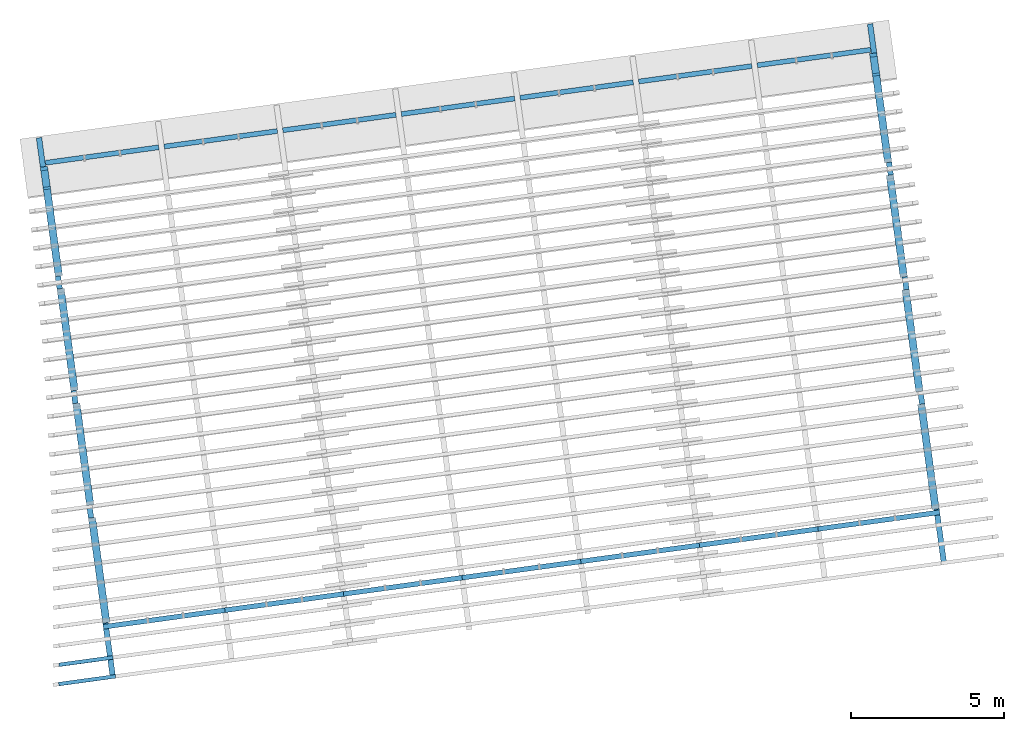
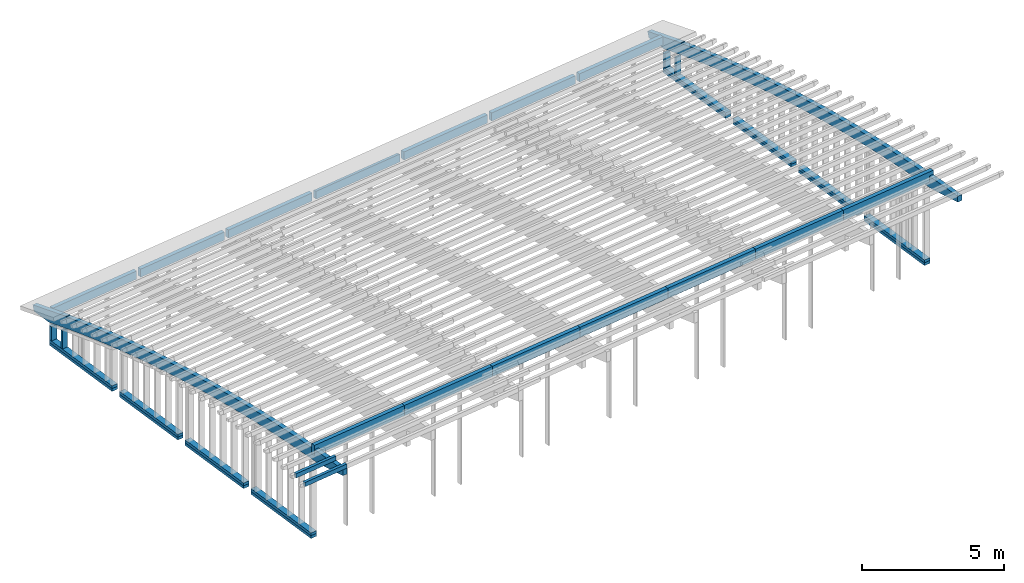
# One storey, part 2 of 18: 30 beams, 4 columns, 2 building element parts, 2 slabs, 2 elements without a shape of their own.
"""IFC2X3 building model written with IfcOpenShell, lengths in metres."""

import ifcopenshell
import ifcopenshell.guid

model = None  # the IFC model being written
_history = None  # IfcOwnerHistory: only IFC2X3 demands one
_inside = {}  # id of a spatial element -> (the spatial element, [elements in it])
_under = {}  # id of a project, library or spatial element -> (it, [spatial elements below it])
_declared = {}  # id of a project -> (the project, [libraries it declares])
_typed = {}  # id of a type object -> (the type object, [elements of that type])
_made_of = {}  # id of a material, layer set ... -> (it, [elements and type objects made of it])


def new_model(schema):
    """Start an empty IFC model of exactly this schema.

    Asked for "IFC4X3", IfcOpenShell would pick the latest addendum, in which some entities
    have other attributes; the version numbers below select the first issue.
    IFC2X3 requires an IfcOwnerHistory on every rooted entity: one is made here for all.
    """
    global model, _history
    if schema == "IFC4X3":
        model = ifcopenshell.file(schema_version=(4, 3, 0, 0))
    else:
        model = ifcopenshell.file(schema=schema)
    _inside.clear()
    _under.clear()
    _declared.clear()
    _typed.clear()
    _made_of.clear()
    _history = None
    if model.schema == "IFC2X3":
        org = make("IfcOrganization", Name="unknown")
        user = make(
            "IfcPersonAndOrganization",
            ThePerson=make("IfcPerson", FamilyName="unknown"),
            TheOrganization=org,
        )
        app = make(
            "IfcApplication",
            ApplicationDeveloper=org,
            Version="unknown",
            ApplicationFullName="unknown",
            ApplicationIdentifier="unknown",
        )
        _history = make(
            "IfcOwnerHistory",
            OwningUser=user,
            OwningApplication=app,
            ChangeAction="ADDED",
            CreationDate=0,
        )
    return model


def make(cls, **values):
    """One entity of the class cls with the attributes given. An attribute that is None is left unset."""
    return model.create_entity(
        cls, **{name: value for name, value in values.items() if value is not None}
    )


def entity(cls, *values):
    """Any entity or typed value of the class cls, its attributes in the order of the schema. None: left unset."""
    e = model.create_entity(cls)
    for i, value in enumerate(values):
        if value is not None:
            e[i] = value
    return e


def rooted(cls, **values):
    """An entity with a GlobalId (a new one), such as an element, a storey or a relation."""
    return make(cls, GlobalId=ifcopenshell.guid.new(), OwnerHistory=_history, **values)


def si_unit(unit_type, name, prefix=None):
    """IfcSIUnit, for example si_unit("LENGTHUNIT", "METRE", prefix="MILLI")."""
    return make("IfcSIUnit", UnitType=unit_type, Prefix=prefix, Name=name)


def converted_unit(unit_type, name, factor, base, dimensions=None, offset=None):
    """IfcConversionBasedUnit, such as the inch: factor (a typed value) times the base unit."""
    return make(
        "IfcConversionBasedUnit"
        if offset is None
        else "IfcConversionBasedUnitWithOffset",
        ConversionOffset=offset,
        Dimensions=None
        if dimensions is None
        else entity("IfcDimensionalExponents", *dimensions),
        UnitType=unit_type,
        Name=name,
        ConversionFactor=make(
            "IfcMeasureWithUnit", ValueComponent=factor, UnitComponent=base
        ),
    )


def derived_unit(unit_type, elements):
    """IfcDerivedUnit: a product of units, each with its exponent."""
    return make(
        "IfcDerivedUnit",
        Elements=[
            make("IfcDerivedUnitElement", Unit=unit, Exponent=power)
            for unit, power in elements
        ],
        UnitType=unit_type,
    )


def money_unit(currency):
    """IfcMonetaryUnit."""
    return make("IfcMonetaryUnit", Currency=currency)


def assignment(units):
    """IfcUnitAssignment: the units of a project."""
    return None if units is None else make("IfcUnitAssignment", Units=units)


def point(xyz):
    """IfcCartesianPoint."""
    return None if xyz is None else make("IfcCartesianPoint", Coordinates=xyz)


def direction(xyz):
    """IfcDirection."""
    return None if xyz is None else make("IfcDirection", DirectionRatios=xyz)


def frame(location, z_axis=None, x_axis=None):
    """IfcAxis2Placement3D, a coordinate frame: its origin and axes. An axis left out is left unset."""
    return make(
        "IfcAxis2Placement3D",
        Location=point(location),
        Axis=direction(z_axis),
        RefDirection=direction(x_axis),
    )


def frame_2d(location, x_axis=None):
    """IfcAxis2Placement2D, a coordinate frame in the plane: its origin and x axis."""
    return make(
        "IfcAxis2Placement2D", Location=point(location), RefDirection=direction(x_axis)
    )


def origin_with_axes():
    """The frame at (0, 0, 0) with the z axis (0, 0, 1) and the x axis (1, 0, 0) written out."""
    return frame((0.0, 0.0, 0.0), z_axis=(0.0, 0.0, 1.0), x_axis=(1.0, 0.0, 0.0))


def origin_2d_with_axis():
    """The frame at (0, 0) in the plane with the x axis (1, 0) written out."""
    return frame_2d((0.0, 0.0), x_axis=(1.0, 0.0))


def place(relative_to, where):
    """IfcLocalPlacement: puts the frame where relative to a parent placement (None: the world)."""
    return make(
        "IfcLocalPlacement", PlacementRelTo=relative_to, RelativePlacement=where
    )


def context(
    kind, dimensions, precision=None, world=None, true_north=None, identifier=None
):
    """IfcGeometricRepresentationContext, for example the 3D "Model" context."""
    return make(
        "IfcGeometricRepresentationContext",
        ContextIdentifier=identifier,
        ContextType=kind,
        CoordinateSpaceDimension=dimensions,
        Precision=precision,
        WorldCoordinateSystem=world,
        TrueNorth=true_north,
    )


def subcontext(parent, identifier, kind, view, scale=None):
    """IfcGeometricRepresentationSubContext, for example "Body" below "Model"."""
    return make(
        "IfcGeometricRepresentationSubContext",
        ContextIdentifier=identifier,
        ContextType=kind,
        ParentContext=parent,
        TargetScale=scale,
        TargetView=view,
    )


def project(units=None, contexts=None):
    """IfcProject with its units and contexts."""
    return rooted(
        "IfcProject",
        Name="project",
        RepresentationContexts=contexts,
        UnitsInContext=assignment(units),
    )


def spatial(cls, under=None, at=None, **own):
    """A site, building, storey or space (cls), placed at a placement, below another one or the project."""
    s = rooted(cls, ObjectPlacement=at, **own)
    if under is not None:
        _under.setdefault(under.id(), (under, []))[1].append(s)
    return s


def profile(cls, at=None, kind="AREA", **sizes):
    """A parametric profile (cls). Its sizes go by their IFC names, for example OverallWidth=200.0."""
    return make(cls, ProfileType=kind, Position=at, **sizes)


def rectangle(**sizes):
    """IfcRectangleProfileDef."""
    return profile("IfcRectangleProfileDef", **sizes)


def extrude(swept, where, along, depth):
    """IfcExtrudedAreaSolid: the profile swept, set in the frame where, extruded along a direction by depth."""
    return make(
        "IfcExtrudedAreaSolid",
        SweptArea=swept,
        Position=where,
        ExtrudedDirection=direction(along),
        Depth=depth,
    )


def boolean(op, a, b):
    """IfcBooleanResult of two solids."""
    return make("IfcBooleanResult", Operator=op, FirstOperand=a, SecondOperand=b)


def faces_of(points, faces, orient=None, outer=None):
    """IfcFace entities. A face is a list of loops; a loop is a list of indices into points, from 0.

    orient and outer hold one flag for each loop. By default every Orientation is true, the
    first loop of a face is its IfcFaceOuterBound and the others are IfcFaceBound.
    """
    made = []
    for i, loops in enumerate(faces):
        bounds = []
        for j, loop in enumerate(loops):
            is_outer = j == 0 if outer is None else outer[i][j]
            bounds.append(
                make(
                    "IfcFaceOuterBound" if is_outer else "IfcFaceBound",
                    Bound=make("IfcPolyLoop", Polygon=[points[k] for k in loop]),
                    Orientation=True if orient is None else orient[i][j],
                )
            )
        made.append(make("IfcFace", Bounds=bounds))
    return made


def faceted_brep(points, faces, orient=None, outer=None, voids=None):
    """IfcFacetedBrep: a solid bounded by flat faces; with voids (closed shells), ...WithVoids."""
    shared = [point(p) for p in points]
    hull = make("IfcClosedShell", CfsFaces=faces_of(shared, faces, orient, outer))
    if voids is None:
        return make("IfcFacetedBrep", Outer=hull)
    return make(
        "IfcFacetedBrepWithVoids",
        Outer=hull,
        Voids=[
            make(cls, CfsFaces=faces_of(shared, fs, o, b)) for cls, fs, o, b in voids
        ],
    )


def shape(context_of_items, identifier, shape_type, items):
    """IfcShapeRepresentation: the items that make up one representation, for example the "Body"."""
    return make(
        "IfcShapeRepresentation",
        ContextOfItems=context_of_items,
        RepresentationIdentifier=identifier,
        RepresentationType=shape_type,
        Items=items,
    )


def source(mapping_origin, context_of_items, identifier, shape_type, items):
    """IfcRepresentationMap: a shape defined once, which mapped items show again and again."""
    return make(
        "IfcRepresentationMap",
        MappingOrigin=mapping_origin,
        MappedRepresentation=shape(context_of_items, identifier, shape_type, items),
    )


def transform(
    local_origin,
    x_axis=None,
    y_axis=None,
    z_axis=None,
    scale=None,
    scale2=None,
    scale3=None,
    uniform=True,
):
    """IfcCartesianTransformationOperator3D, or its non-uniform kind. x_axis, y_axis, z_axis: its Axis1, 2, 3."""
    if uniform:
        return make(
            "IfcCartesianTransformationOperator3D",
            Axis1=direction(x_axis),
            Axis2=direction(y_axis),
            LocalOrigin=point(local_origin),
            Scale=scale,
            Axis3=direction(z_axis),
        )
    return make(
        "IfcCartesianTransformationOperator3DnonUniform",
        Axis1=direction(x_axis),
        Axis2=direction(y_axis),
        LocalOrigin=point(local_origin),
        Scale=scale,
        Axis3=direction(z_axis),
        Scale2=scale2,
        Scale3=scale3,
    )


def mapped(mapping_source, mapping_target):
    """IfcMappedItem: shows the shape of a source again, moved by a transform."""
    return make(
        "IfcMappedItem", MappingSource=mapping_source, MappingTarget=mapping_target
    )


def material(Name=None, Category=None):
    """IfcMaterial."""
    return make("IfcMaterial", Name=Name, Category=Category)


def made_of(thing, what):
    """Note that an element or type object is made of a material, layer set ...; save() writes the relation."""
    if what is not None:
        _made_of.setdefault(what.id(), (what, []))[1].append(thing)
    return thing


def type_object(cls, material=None, **own):
    """A type object (cls), such as IfcWallType, which elements share."""
    return made_of(rooted(cls, **own), material)


def element(
    cls,
    number,
    at=None,
    inside=None,
    cuts=None,
    type_object=None,
    material=None,
    context=None,
    identifier="Body",
    shape_type=None,
    held_by="IfcProductDefinitionShape",
    body=None,
    shapes=None,
    **own,
):
    """One element of the class cls, such as IfcWall. Its Tag is "e" and its number.

    at: its placement. inside: the storey or other place that contains it. cuts: it is an
    opening in that element (IfcRelVoidsElement). A single representation is given by context,
    identifier, shape_type and body (its items); several are given by shapes. held_by: the class
    of the entity that holds the representations. save() writes the other relations.
    """
    e = rooted(cls, Tag="e%d" % number, ObjectPlacement=at, **own)
    if body is not None:
        shapes = [shape(context, identifier, shape_type, body)]
    if shapes is not None:
        e.Representation = make(held_by, Representations=shapes)
    if inside is not None:
        _inside.setdefault(inside.id(), (inside, []))[1].append(e)
    if cuts is not None:
        rooted(
            "IfcRelVoidsElement", RelatingBuildingElement=cuts, RelatedOpeningElement=e
        )
    if type_object is not None:
        _typed.setdefault(type_object.id(), (type_object, []))[1].append(e)
    return made_of(e, material)


def aggregate(whole, parts):
    """IfcRelAggregates: a whole, such as a stair, and the parts it consists of."""
    return rooted("IfcRelAggregates", RelatingObject=whole, RelatedObjects=parts)


def save(model, path):
    """Write the relations noted so far, then the file.

    IfcRelAggregates (storeys below a building ...), IfcRelContainedInSpatialStructure (elements
    in a storey), IfcRelDefinesByType, IfcRelAssociatesMaterial and IfcRelDeclares: one each for
    every whole, place, type object, material and project.
    """
    for whole, parts in _under.values():
        aggregate(whole, parts)
    for where, things in _inside.values():
        rooted(
            "IfcRelContainedInSpatialStructure",
            RelatedElements=things,
            RelatingStructure=where,
        )
    for kind, things in _typed.values():
        rooted("IfcRelDefinesByType", RelatedObjects=things, RelatingType=kind)
    for what, things in _made_of.values():
        rooted("IfcRelAssociatesMaterial", RelatedObjects=things, RelatingMaterial=what)
    for by, libraries in _declared.values():
        rooted("IfcRelDeclares", RelatingContext=by, RelatedDefinitions=libraries)
    model.write(path)


model = new_model("IFC2X3")

# Units and contexts
model_context = context("Model", 3, precision=1e-05, world=origin_with_axes(), true_north=direction((0.0, 1.0)))
body_context = subcontext(model_context, "Body", "Model", "MODEL_VIEW")
ifc_project = project(units=[si_unit("LENGTHUNIT", "METRE"), si_unit("AREAUNIT", "SQUARE_METRE"), si_unit("VOLUMEUNIT", "CUBIC_METRE"), converted_unit("PLANEANGLEUNIT", "DEGREE", entity("IfcPlaneAngleMeasure", 0.0174532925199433), si_unit("PLANEANGLEUNIT", "RADIAN"), dimensions=[0, 0, 0, 0, 0, 0, 0]), money_unit("EUR"), converted_unit("TIMEUNIT", "Year", entity("IfcTimeMeasure", 31557600.0), si_unit("TIMEUNIT", "SECOND"), dimensions=[0, 0, 1, 0, 0, 0, 0]), si_unit("MASSUNIT", "GRAM", prefix="KILO"), si_unit("THERMODYNAMICTEMPERATUREUNIT", "DEGREE_CELSIUS"), si_unit("LUMINOUSINTENSITYUNIT", "LUMEN"), si_unit("ENERGYUNIT", "JOULE", prefix="MEGA"), derived_unit("THERMALCONDUCTANCEUNIT", [(si_unit("POWERUNIT", "WATT"), 1), (si_unit("LENGTHUNIT", "METRE"), -1), (si_unit("THERMODYNAMICTEMPERATUREUNIT", "KELVIN"), -1)]), derived_unit("SPECIFICHEATCAPACITYUNIT", [(si_unit("ENERGYUNIT", "JOULE"), 1), (si_unit("MASSUNIT", "GRAM", prefix="KILO"), -1), (si_unit("THERMODYNAMICTEMPERATUREUNIT", "KELVIN"), -1)]), derived_unit("MASSDENSITYUNIT", [(si_unit("MASSUNIT", "GRAM", prefix="KILO"), 1), (si_unit("VOLUMEUNIT", "CUBIC_METRE"), -1)])], contexts=[model_context])

# Site, building, storey
site_placement = place(None, origin_with_axes())
site = spatial("IfcSite", under=ifc_project, at=site_placement, Name="Gelände", CompositionType="ELEMENT")
building_placement = place(site_placement, origin_with_axes())
building = spatial("IfcBuilding", under=site, at=building_placement, Name="Gebäude", CompositionType="ELEMENT")
storey_placement = place(building_placement, frame((0.0, 0.0, 5.5), z_axis=(0.0, 0.0, 1.0), x_axis=(1.0, 0.0, 0.0)))
storey = spatial("IfcBuildingStorey", under=building, at=storey_placement, Name="OG", CompositionType="ELEMENT", Elevation=5.5)

# Columns
ifc_material_1 = material(Name="Bauholz")
column_type_1 = type_object("IfcColumnType", Name="Bauholz 80 x 240", PredefinedType="NOTDEFINED")
column_1_placement = place(storey_placement, frame((111.7343135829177, -132.936723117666, 1.071999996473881), z_axis=(0.0, 0.0, 1.0), x_axis=(-0.1357111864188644, 0.9907484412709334, 0.0)))
element("IfcColumn", 1, at=column_1_placement, inside=storey, type_object=column_type_1, material=ifc_material_1, Name="Stütze-018", context=body_context, shape_type="SweptSolid", body=[
    extrude(rectangle(XDim=0.08, YDim=0.24, at=origin_2d_with_axis()), origin_with_axes(), (0.0, 0.0, 1.0), 0.7973514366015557),
])
column_2_placement = place(storey_placement, frame((84.62347323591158, -136.6503240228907, 1.071999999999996), z_axis=(0.0, 0.0, 1.0), x_axis=(-0.1357111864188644, 0.9907484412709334, 0.0)))
element("IfcColumn", 2, at=column_2_placement, inside=storey, type_object=column_type_1, material=ifc_material_1, Name="Stütze-018", context=body_context, shape_type="SweptSolid", body=[
    extrude(rectangle(XDim=0.08, YDim=0.24, at=origin_2d_with_axis()), origin_with_axes(), (0.0, 0.0, 1.0), 0.7973514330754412),
])
column_type_2 = type_object("IfcColumnType", Name="Bauholz 120 x 240", PredefinedType="NOTDEFINED")
column_3_placement = place(storey_placement, frame((111.646779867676, -132.2976903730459, 1.071999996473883), z_axis=(0.0, 0.0, 1.0), x_axis=(-0.1357111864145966, 0.9907484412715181, 0.0)))
element("IfcColumn", 3, at=column_3_placement, inside=storey, type_object=column_type_2, material=ifc_material_1, Name="Stütze-018", context=body_context, shape_type="SweptSolid", body=[
    extrude(rectangle(XDim=0.12, YDim=0.24, at=origin_2d_with_axis()), origin_with_axes(), (0.0, 0.0, 1.0), 0.6168987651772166),
])
column_4_placement = place(storey_placement, frame((84.53593952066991, -136.0112912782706, 1.071999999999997), z_axis=(0.0, 0.0, 1.0), x_axis=(-0.1357111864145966, 0.9907484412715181, 0.0)))
element("IfcColumn", 4, at=column_4_placement, inside=storey, type_object=column_type_2, material=ifc_material_1, Name="Stütze-018", context=body_context, shape_type="SweptSolid", body=[
    extrude(rectangle(XDim=0.12, YDim=0.24, at=origin_2d_with_axis()), origin_with_axes(), (0.0, 0.0, 1.0), 0.6168987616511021),
])

# Beams
ifc_material_2 = material(Name="Holz, Bauholz")
beam_type_1 = type_object("IfcBeamType", Name="Holz, Bauholz 240 x 120", PredefinedType="NOTDEFINED")
beam_1_placement = place(storey_placement, frame((112.6977272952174, -139.9700463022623, 1.071999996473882), z_axis=(0.0, 0.0, 1.0), x_axis=(-0.9907484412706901, -0.1357111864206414, 0.0)))
element("IfcBeam", 5, at=beam_1_placement, inside=storey, type_object=beam_type_1, material=ifc_material_2, Name="Unterzug-021", context=body_context, shape_type="SweptSolid", body=[
    extrude(rectangle(XDim=0.12, YDim=0.24, at=frame_2d((-0.06, 0.0), x_axis=(1.0, 0.0))), frame((0.0, 0.0, 0.0), z_axis=(0.0, 1.0, 0.0), x_axis=(0.0, 0.0, 1.0)), (0.0, 0.0, 1.0), 3.35999999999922),
])
beam_2_placement = place(storey_placement, frame((85.0168999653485, -139.5225037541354, 1.071999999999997), z_axis=(0.0, 0.0, 1.0), x_axis=(0.9907484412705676, 0.1357111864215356, 0.0)))
element("IfcBeam", 6, at=beam_2_placement, inside=storey, type_object=beam_type_1, material=ifc_material_2, Name="Unterzug-021", context=body_context, shape_type="SweptSolid", body=[
    extrude(rectangle(XDim=0.12, YDim=0.24, at=frame_2d((-0.06, 0.0), x_axis=(1.0, 0.0))), frame((0.0, 0.0, 0.0), z_axis=(0.0, 1.0, 0.0), x_axis=(0.0, 0.0, 1.0)), (0.0, 0.0, 1.0), 3.604000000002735),
])
beam_3_placement = place(storey_placement, frame((85.07389866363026, -139.9386180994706, 1.071999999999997), z_axis=(0.0, 0.0, 1.0), x_axis=(-0.9907484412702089, -0.1357111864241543, 0.0)))
element("IfcBeam", 7, at=beam_3_placement, inside=storey, type_object=beam_type_1, material=ifc_material_2, Name="Unterzug-021", context=body_context, shape_type="SweptSolid", body=[
    extrude(rectangle(XDim=0.12, YDim=0.24, at=frame_2d((-0.06, 0.0), x_axis=(1.0, 0.0))), frame((0.0, 0.0, 0.0), z_axis=(0.0, 1.0, 0.0), x_axis=(0.0, 0.0, 1.0)), (0.0, 0.0, 1.0), 3.359999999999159),
])
beam_4_placement = place(storey_placement, frame((85.5868869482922, -143.6836472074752, 1.071999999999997), z_axis=(0.0, 0.0, 1.0), x_axis=(-0.9907484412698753, -0.1357111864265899, 0.0)))
element("IfcBeam", 8, at=beam_4_placement, inside=storey, type_object=beam_type_1, material=ifc_material_2, Name="Unterzug-021", context=body_context, shape_type="SweptSolid", body=[
    extrude(rectangle(XDim=0.12, YDim=0.24, at=frame_2d((-0.06, 0.0), x_axis=(1.0, 0.0))), frame((0.0, 0.0, 0.0), z_axis=(0.0, 1.0, 0.0), x_axis=(0.0, 0.0, 1.0)), (0.0, 0.0, 1.0), 3.359999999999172),
])
beam_5_placement = place(storey_placement, frame((86.09987523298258, -147.4286763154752, 1.071999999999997), z_axis=(0.0, 0.0, 1.0), x_axis=(-0.990748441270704, -0.135711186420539, 0.0)))
element("IfcBeam", 9, at=beam_5_placement, inside=storey, type_object=beam_type_1, material=ifc_material_2, Name="Unterzug-021", context=body_context, shape_type="SweptSolid", body=[
    extrude(rectangle(XDim=0.12, YDim=0.24, at=frame_2d((-0.06, 0.0), x_axis=(1.0, 0.0))), frame((0.0, 0.0, 0.0), z_axis=(0.0, 1.0, 0.0), x_axis=(0.0, 0.0, 1.0)), (0.0, 0.0, 1.0), 3.45999994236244),
])
beam_6_placement = place(storey_placement, frame((112.1277403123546, -135.8089028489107, 1.071999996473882), z_axis=(0.0, 0.0, 1.0), x_axis=(0.9907484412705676, 0.1357111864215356, 0.0)))
element("IfcBeam", 10, at=beam_6_placement, inside=storey, type_object=beam_type_1, material=ifc_material_2, Name="Unterzug-021", context=body_context, shape_type="SweptSolid", body=[
    extrude(rectangle(XDim=0.12, YDim=0.24, at=frame_2d((-0.06, 0.0), x_axis=(1.0, 0.0))), frame((0.0, 0.0, 0.0), z_axis=(0.0, 1.0, 0.0), x_axis=(0.0, 0.0, 1.0)), (0.0, 0.0, 1.0), 3.604000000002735),
])
beam_7_placement = place(storey_placement, frame((113.2107155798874, -143.7150754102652, 1.071999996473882), z_axis=(0.0, 0.0, 1.0), x_axis=(-0.9907484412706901, -0.135711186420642, 0.0)))
element("IfcBeam", 11, at=beam_7_placement, inside=storey, type_object=beam_type_1, material=ifc_material_2, Name="Unterzug-021", context=body_context, shape_type="SweptSolid", body=[
    extrude(rectangle(XDim=0.12, YDim=0.24, at=frame_2d((-0.06, 0.0), x_axis=(1.0, 0.0))), frame((0.0, 0.0, 0.0), z_axis=(0.0, 1.0, 0.0), x_axis=(0.0, 0.0, 1.0)), (0.0, 0.0, 1.0), 3.459999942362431),
])
beam_8_placement = place(storey_placement, frame((112.1847390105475, -136.2250171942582, 1.071999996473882), z_axis=(0.0, 0.0, 1.0), x_axis=(-0.9907484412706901, -0.1357111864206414, 0.0)))
element("IfcBeam", 12, at=beam_8_placement, inside=storey, type_object=beam_type_1, material=ifc_material_2, Name="Unterzug-021", context=body_context, shape_type="SweptSolid", body=[
    extrude(rectangle(XDim=0.12, YDim=0.24, at=frame_2d((-0.06, 0.0), x_axis=(1.0, 0.0))), frame((0.0, 0.0, 0.0), z_axis=(0.0, 1.0, 0.0), x_axis=(0.0, 0.0, 1.0)), (0.0, 0.0, 1.0), 3.35999999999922),
])
ifc_material_3 = material(Name="Holz, Bauholz-hart")
beam_type_2 = type_object("IfcBeamType", Name="Holz, Bauholz-hart 240 x 120", PredefinedType="NOTDEFINED")
beam_9_placement = place(storey_placement, frame((85.07389866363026, -139.9386180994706, 0.9519999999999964), z_axis=(0.0, 0.0, 1.0), x_axis=(-0.9907484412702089, -0.1357111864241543, 0.0)))
element("IfcBeam", 13, at=beam_9_placement, inside=storey, type_object=beam_type_2, material=ifc_material_3, Name="Unterzug-021", context=body_context, shape_type="SweptSolid", body=[
    extrude(rectangle(XDim=0.12, YDim=0.24, at=frame_2d((-0.06, 0.0), x_axis=(1.0, 0.0))), frame((0.0, 0.0, 0.0), z_axis=(0.0, 1.0, 0.0), x_axis=(0.0, 0.0, 1.0)), (0.0, 0.0, 1.0), 3.359999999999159),
])
beam_10_placement = place(storey_placement, frame((113.2107155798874, -143.7150754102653, 0.9519999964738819), z_axis=(0.0, 0.0, 1.0), x_axis=(-0.9907484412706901, -0.135711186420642, 0.0)))
element("IfcBeam", 14, at=beam_10_placement, inside=storey, type_object=beam_type_2, material=ifc_material_3, Name="Unterzug-021", context=body_context, shape_type="SweptSolid", body=[
    extrude(rectangle(XDim=0.12, YDim=0.24, at=frame_2d((-0.06, 0.0), x_axis=(1.0, 0.0))), frame((0.0, 0.0, 0.0), z_axis=(0.0, 1.0, 0.0), x_axis=(0.0, 0.0, 1.0)), (0.0, 0.0, 1.0), 3.459999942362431),
])
for number, where, z_axis, x_axis, name in (
    (15, (85.0168999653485, -139.5225037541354, 0.9519999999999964), (0.0, 0.0, 1.0), (0.9907484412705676, 0.1357111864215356, 0.0), "Unterzug-021"),
    (16, (112.1277403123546, -135.8089028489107, 0.9519999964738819), (0.0, 0.0, 1.0), (0.9907484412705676, 0.1357111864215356, 0.0), "Unterzug-021"),
):
    element("IfcBeam", number, at=place(storey_placement, frame(where, z_axis=z_axis, x_axis=x_axis)), inside=storey, type_object=beam_type_2, material=ifc_material_3, Name=name, context=body_context, shape_type="SweptSolid", body=[
        extrude(rectangle(XDim=0.12, YDim=0.24, at=frame_2d((-0.06, 0.0), x_axis=(1.0, 0.0))), frame((0.0, 0.0, 0.0), z_axis=(0.0, 1.0, 0.0), x_axis=(0.0, 0.0, 1.0)), (0.0, 0.0, 1.0), 3.604000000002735),
    ])
beam_11_placement = place(storey_placement, frame((112.6977272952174, -139.9700463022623, 0.9519999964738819), z_axis=(0.0, 0.0, 1.0), x_axis=(-0.9907484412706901, -0.1357111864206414, 0.0)))
element("IfcBeam", 17, at=beam_11_placement, inside=storey, type_object=beam_type_2, material=ifc_material_3, Name="Unterzug-021", context=body_context, shape_type="SweptSolid", body=[
    extrude(rectangle(XDim=0.12, YDim=0.24, at=frame_2d((-0.06, 0.0), x_axis=(1.0, 0.0))), frame((0.0, 0.0, 0.0), z_axis=(0.0, 1.0, 0.0), x_axis=(0.0, 0.0, 1.0)), (0.0, 0.0, 1.0), 3.35999999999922),
])
beam_12_placement = place(storey_placement, frame((86.09987523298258, -147.4286763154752, 0.9519999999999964), z_axis=(0.0, 0.0, 1.0), x_axis=(-0.990748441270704, -0.135711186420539, 0.0)))
element("IfcBeam", 18, at=beam_12_placement, inside=storey, type_object=beam_type_2, material=ifc_material_3, Name="Unterzug-021", context=body_context, shape_type="SweptSolid", body=[
    extrude(rectangle(XDim=0.12, YDim=0.24, at=frame_2d((-0.06, 0.0), x_axis=(1.0, 0.0))), frame((0.0, 0.0, 0.0), z_axis=(0.0, 1.0, 0.0), x_axis=(0.0, 0.0, 1.0)), (0.0, 0.0, 1.0), 3.45999994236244),
])
beam_13_placement = place(storey_placement, frame((85.5868869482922, -143.6836472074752, 0.9519999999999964), z_axis=(0.0, 0.0, 1.0), x_axis=(-0.9907484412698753, -0.1357111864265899, 0.0)))
element("IfcBeam", 19, at=beam_13_placement, inside=storey, type_object=beam_type_2, material=ifc_material_3, Name="Unterzug-021", context=body_context, shape_type="SweptSolid", body=[
    extrude(rectangle(XDim=0.12, YDim=0.24, at=frame_2d((-0.06, 0.0), x_axis=(1.0, 0.0))), frame((0.0, 0.0, 0.0), z_axis=(0.0, 1.0, 0.0), x_axis=(0.0, 0.0, 1.0)), (0.0, 0.0, 1.0), 3.359999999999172),
])
beam_14_placement = place(storey_placement, frame((112.1847390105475, -136.2250171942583, 0.9519999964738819), z_axis=(0.0, 0.0, 1.0), x_axis=(-0.9907484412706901, -0.1357111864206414, 0.0)))
element("IfcBeam", 20, at=beam_14_placement, inside=storey, type_object=beam_type_2, material=ifc_material_3, Name="Unterzug-021", context=body_context, shape_type="SweptSolid", body=[
    extrude(rectangle(XDim=0.12, YDim=0.24, at=frame_2d((-0.06, 0.0), x_axis=(1.0, 0.0))), frame((0.0, 0.0, 0.0), z_axis=(0.0, 1.0, 0.0), x_axis=(0.0, 0.0, 1.0)), (0.0, 0.0, 1.0), 3.35999999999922),
])
ifc_material_4 = material(Name="Holz, Brettschichtholz")
beam_type_3 = type_object("IfcBeamType", Name="Holz, Brettschichtholz 160 x 440", PredefinedType="NOTDEFINED")
beam_15_placement = place(storey_placement, frame((109.8365940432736, -147.7927058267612, 4.948933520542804), z_axis=(0.0, 0.0, 1.0), x_axis=(0.1357111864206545, -0.9907484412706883, 0.0)))
element("IfcBeam", 21, at=beam_15_placement, inside=storey, type_object=beam_type_3, material=ifc_material_4, Name="Unterzug-028", context=body_context, shape_type="SweptSolid", body=[
    extrude(rectangle(XDim=0.44, YDim=0.16, at=frame_2d((-0.22, 0.0), x_axis=(1.0, 0.0))), frame((0.0, 0.0, 0.0), z_axis=(0.0, 1.0, 0.0), x_axis=(0.0, 0.0, 1.0)), (0.0, 0.0, 1.0), 4.016280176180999),
])
beam_16_placement = place(storey_placement, frame((94.32430416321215, -149.917555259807, 4.948933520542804), z_axis=(0.0, 0.0, 1.0), x_axis=(0.1357111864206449, -0.9907484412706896, 0.0)))
element("IfcBeam", 22, at=beam_16_placement, inside=storey, type_object=beam_type_3, material=ifc_material_4, Name="Unterzug-028", context=body_context, shape_type="SweptSolid", body=[
    extrude(rectangle(XDim=0.44, YDim=0.16, at=frame_2d((-0.22, 0.0), x_axis=(1.0, 0.0))), frame((0.0, 0.0, 0.0), z_axis=(0.0, 1.0, 0.0), x_axis=(0.0, 0.0, 1.0)), (0.0, 0.0, 1.0), 3.914285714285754),
])
beam_17_placement = place(storey_placement, frame((86.46709555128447, -150.9938235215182, 4.948933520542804), z_axis=(0.0, 0.0, 1.0), x_axis=(0.1357111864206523, -0.9907484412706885, 0.0)))
element("IfcBeam", 23, at=beam_17_placement, inside=storey, type_object=beam_type_3, material=ifc_material_4, Name="Unterzug-028", context=body_context, shape_type="SweptSolid", body=[
    extrude(rectangle(XDim=0.44, YDim=0.16, at=frame_2d((-0.22, 0.0), x_axis=(1.0, 0.0))), frame((0.0, 0.0, 0.0), z_axis=(0.0, 1.0, 0.0), x_axis=(0.0, 0.0, 1.0)), (0.0, 0.0, 1.0), 4.016293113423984),
])
beam_18_placement = place(storey_placement, frame((90.4462316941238, -150.4487676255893, 4.948933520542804), z_axis=(0.0, 0.0, 1.0), x_axis=(0.1357111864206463, -0.9907484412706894, 0.0)))
element("IfcBeam", 24, at=beam_18_placement, inside=storey, type_object=beam_type_3, material=ifc_material_4, Name="Unterzug-028", context=body_context, shape_type="SweptSolid", body=[
    extrude(rectangle(XDim=0.44, YDim=0.16, at=frame_2d((-0.22, 0.0), x_axis=(1.0, 0.0))), frame((0.0, 0.0, 0.0), z_axis=(0.0, 1.0, 0.0), x_axis=(0.0, 0.0, 1.0)), (0.0, 0.0, 1.0), 3.914285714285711),
])
beam_19_placement = place(storey_placement, frame((102.0804491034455, -148.8551305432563, 4.948933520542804), z_axis=(0.0, 0.0, 1.0), x_axis=(0.1357111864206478, -0.9907484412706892, 0.0)))
element("IfcBeam", 25, at=beam_19_placement, inside=storey, type_object=beam_type_3, material=ifc_material_4, Name="Unterzug-028", context=body_context, shape_type="SweptSolid", body=[
    extrude(rectangle(XDim=0.44, YDim=0.16, at=frame_2d((-0.22, 0.0), x_axis=(1.0, 0.0))), frame((0.0, 0.0, 0.0), z_axis=(0.0, 1.0, 0.0), x_axis=(0.0, 0.0, 1.0)), (0.0, 0.0, 1.0), 3.914285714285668),
])
beam_20_placement = place(storey_placement, frame((98.20237663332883, -149.3863429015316, 4.948933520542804), z_axis=(0.0, 0.0, 1.0), x_axis=(0.1357111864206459, -0.9907484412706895, 0.0)))
element("IfcBeam", 26, at=beam_20_placement, inside=storey, type_object=beam_type_3, material=ifc_material_4, Name="Unterzug-028", context=body_context, shape_type="CSG", body=[
    boolean("DIFFERENCE", extrude(rectangle(XDim=0.44, YDim=0.16, at=frame_2d((-0.22, 0.0), x_axis=(1.0, 0.0))), frame((0.0, 0.0, 0.0), z_axis=(0.0, 1.0, 0.0), x_axis=(0.0, 0.0, 1.0)), (0.0, 0.0, 1.0), 3.914285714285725), faceted_brep([(0.0008128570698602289, 0.0, 0.0), (0.0008128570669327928, 3.914285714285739, 0.0), (-0.0800000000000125, 3.914285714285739, 0.0), (-0.0800000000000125, 0.0, 0.0), (-0.0800000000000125, 3.914285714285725, -0.003582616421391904), (-0.0800000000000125, 0.0, -0.003582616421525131)], [[[0, 1, 2, 3]], [[4, 1, 0, 5]], [[1, 4, 2]], [[4, 5, 3, 2]], [[5, 0, 3]]])),
])
beam_21_placement = place(storey_placement, frame((105.9585215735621, -148.323918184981, 4.948933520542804), z_axis=(0.0, 0.0, 1.0), x_axis=(0.1357111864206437, -0.9907484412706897, 0.0)))
element("IfcBeam", 27, at=beam_21_placement, inside=storey, type_object=beam_type_3, material=ifc_material_4, Name="Unterzug-028", context=body_context, shape_type="SweptSolid", body=[
    extrude(rectangle(XDim=0.44, YDim=0.16, at=frame_2d((-0.22, 0.0), x_axis=(1.0, 0.0))), frame((0.0, 0.0, 0.0), z_axis=(0.0, 1.0, 0.0), x_axis=(0.0, 0.0, 1.0)), (0.0, 0.0, 1.0), 3.914285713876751),
])
beam_type_4 = type_object("IfcBeamType", Name="Holz, Brettschichtholz 160 x 350", PredefinedType="NOTDEFINED")
for number, where, z_axis, x_axis, name in (
    (28, (107.8510087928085, -132.6339297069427, 2.316011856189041), (0.0, 0.0, 1.0), (0.1357111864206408, -0.9907484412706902, 0.0), "Unterzug-028"),
    (29, (92.3387189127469, -134.7587791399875, 2.316011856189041), (0.0, 0.0, 1.0), (0.1357111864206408, -0.9907484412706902, 0.0), "Unterzug-028"),
    (30, (88.46064644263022, -135.2899914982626, 2.316011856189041), (0.0, 0.0, 1.0), (0.1357111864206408, -0.9907484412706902, 0.0), "Unterzug-028"),
):
    element("IfcBeam", number, at=place(storey_placement, frame(where, z_axis=z_axis, x_axis=x_axis)), inside=storey, type_object=beam_type_4, material=ifc_material_4, Name=name, context=body_context, shape_type="SweptSolid", body=[
        extrude(rectangle(XDim=0.35, YDim=0.16, at=frame_2d((-0.175, 0.0), x_axis=(1.0, 0.0))), frame((0.0, 0.0, 0.0), z_axis=(0.0, 1.0, 0.0), x_axis=(0.0, 0.0, 1.0)), (0.0, 0.0, 1.0), 3.73428571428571),
    ])
beam_22_placement = place(storey_placement, frame((84.58257397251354, -135.8212038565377, 2.315550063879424), z_axis=(0.0, 0.0, 1.0), x_axis=(0.1357111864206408, -0.9907484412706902, 0.0)))
element("IfcBeam", 31, at=beam_22_placement, inside=storey, type_object=beam_type_4, material=ifc_material_4, Name="Unterzug-028", context=body_context, shape_type="CSG", body=[
    boolean("DIFFERENCE", extrude(rectangle(XDim=0.35, YDim=0.16, at=frame_2d((-0.175, 0.0), x_axis=(1.0, 0.0))), frame((0.0, 0.0, 0.0), z_axis=(0.0, 1.0, 0.0), x_axis=(0.0, 0.0, 1.0)), (0.0, 0.0, 1.0), 3.734285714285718), faceted_brep([(-0.0800000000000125, 3.734285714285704, -0.3495382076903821), (0.0800000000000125, 3.734285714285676, -0.3495382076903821), (0.0800000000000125, 3.73428571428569, -0.3499999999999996), (-0.0800000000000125, 3.734285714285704, -0.3499999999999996), (0.07999999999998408, 3.624285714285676, -0.3495382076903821), (-0.0800000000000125, 3.624285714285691, -0.3495382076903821), (0.07999999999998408, 3.624285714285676, -0.3499999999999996), (-0.0800000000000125, 3.624285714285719, -0.3499999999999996)], [[[0, 1, 2, 3]], [[4, 1, 0, 5]], [[4, 6, 2, 1]], [[6, 7, 3, 2]], [[5, 0, 3, 7]], [[6, 4, 5, 7]]])),
])
beam_23_placement = place(storey_placement, frame((96.21679138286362, -134.2275667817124, 2.316011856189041), z_axis=(0.0, 0.0, 1.0), x_axis=(0.1357111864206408, -0.9907484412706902, 0.0)))
element("IfcBeam", 32, at=beam_23_placement, inside=storey, type_object=beam_type_4, material=ifc_material_4, Name="Unterzug-028", context=body_context, shape_type="CSG", body=[
    boolean("DIFFERENCE", extrude(rectangle(XDim=0.35, YDim=0.16, at=frame_2d((-0.175, 0.0), x_axis=(1.0, 0.0))), frame((0.0, 0.0, 0.0), z_axis=(0.0, 1.0, 0.0), x_axis=(0.0, 0.0, 1.0)), (0.0, 0.0, 1.0), 3.734285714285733), faceted_brep([(0.07999999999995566, 0.0, -0.007100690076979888), (0.07999999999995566, 3.734285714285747, -0.007100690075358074), (0.07999999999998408, 3.734285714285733, 0.0), (0.07999999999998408, 0.0, 0.0), (-0.0800000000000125, 3.734285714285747, -0.05413056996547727), (-0.0800000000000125, 0.0, -0.05413056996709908), (-0.0800000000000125, 3.734285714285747, 0.0), (-0.0800000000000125, 0.0, 0.0)], [[[0, 1, 2, 3]], [[4, 1, 0, 5]], [[1, 4, 6, 2]], [[6, 7, 3, 2]], [[5, 0, 3, 7]], [[4, 5, 7, 6]]])),
])
for number, where, z_axis, x_axis, name in (
    (33, (100.0948638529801, -133.6963544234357, 2.316011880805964), (0.0, 0.0, 1.0), (0.1357111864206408, -0.9907484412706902, 0.0), "Unterzug-028"),
    (34, (103.9729363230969, -133.1651420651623, 2.316011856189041), (0.0, 0.0, 1.0), (0.1357111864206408, -0.9907484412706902, 0.0), "Unterzug-028"),
):
    element("IfcBeam", number, at=place(storey_placement, frame(where, z_axis=z_axis, x_axis=x_axis)), inside=storey, type_object=beam_type_4, material=ifc_material_4, Name=name, context=body_context, shape_type="SweptSolid", body=[
        extrude(rectangle(XDim=0.35, YDim=0.16, at=frame_2d((-0.175, 0.0), x_axis=(1.0, 0.0))), frame((0.0, 0.0, 0.0), z_axis=(0.0, 1.0, 0.0), x_axis=(0.0, 0.0, 1.0)), (0.0, 0.0, 1.0), 3.73428571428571),
    ])

# Slabs
slab_type = type_object("IfcSlabType", Name="Holz, Brettschichtholz", PredefinedType="FLOOR")
shared_shape = source(origin_with_axes(), body_context, "Body", "Brep", [
    faceted_brep([(129.4689394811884, -147.344274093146, 6.32), (130.9296843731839, -147.4035640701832, 6.32), (130.9296843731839, -147.4035640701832, 6.5), (129.4689394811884, -147.344274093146, 6.5), (129.4348202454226, -147.0961323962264, 6.32), (129.4696959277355, -147.0903613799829, 6.32), (130.248513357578, -146.9949031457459, 6.32), (131.0284840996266, -146.9093782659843, 6.32), (131.8094814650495, -146.8338006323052, 6.32), (132.5913785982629, -146.7681825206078, 6.32), (133.3740484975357, -146.712534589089, 6.32), (134.1573640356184, -146.6668658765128, 6.32), (134.9411979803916, -146.6311838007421, 6.32), (135.7254230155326, -146.6054941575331, 6.32), (136.5099117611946, -146.5898011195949, 6.32), (137.294536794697, -146.5841072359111, 6.32), (138.0791706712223, -146.5884134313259, 6.32), (138.8636859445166, -146.6027190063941, 6.32), (139.6479551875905, -146.6270216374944, 6.32), (140.4318510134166, -146.6613173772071, 6.32), (141.215246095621, -146.7056006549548, 6.32), (141.9980131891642, -146.759864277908, 6.32), (142.7800251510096, -146.8240994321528, 6.32), (143.5611549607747, -146.8982956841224, 6.32), (144.3412757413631, -146.9824409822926, 6.32), (145.1202607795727, -147.0765216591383, 6.32), (145.5091221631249, -147.1285220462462, 6.32), (145.5117730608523, -147.1086985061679, 6.32), (147.4892874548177, -147.4058964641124, 6.32), (147.4467335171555, -147.6521209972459, 6.32), (146.5937944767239, -147.7689552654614, 6.32), (146.207446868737, -147.7098028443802, 6.32), (145.4333010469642, -147.6013953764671, 6.32), (144.6578313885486, -147.5029030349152, 6.32), (143.8811648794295, -147.414341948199, 6.32), (143.1034287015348, -147.3357266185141, 6.32), (142.3247502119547, -147.267069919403, 6.32), (141.545256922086, -147.2083830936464, 6.32), (140.7650764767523, -147.1596757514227, 6.32), (139.984336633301, -147.120955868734, 6.32), (139.2031652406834, -147.0922297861, 6.32), (138.4216902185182, -147.0735022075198, 6.32), (137.6400395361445, -147.0647761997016, 6.32), (136.8583411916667, -147.0660531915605, 6.32), (136.0767231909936, -147.0773329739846, 6.32), (135.2953135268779, -147.0986136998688, 6.32), (134.514240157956, -147.1298918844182, 6.32), (133.7336309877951, -147.1711624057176, 6.32), (132.9536138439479, -147.2224185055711, 6.32), (132.174316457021, -147.2836517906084, 6.32), (131.3958664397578, -147.3548522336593, 6.32), (131.3958664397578, -147.3548522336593, 6.5), (129.4348202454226, -147.0961323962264, 6.5), (132.174316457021, -147.2836517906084, 6.5), (132.9536138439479, -147.2224185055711, 6.5), (133.7336309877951, -147.1711624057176, 6.5), (134.514240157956, -147.1298918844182, 6.5), (135.2953135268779, -147.0986136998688, 6.5), (136.0767231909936, -147.0773329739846, 6.5), (136.8583411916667, -147.0660531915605, 6.5), (137.6400395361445, -147.0647761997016, 6.5), (138.4216902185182, -147.0735022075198, 6.5), (139.2031652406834, -147.0922297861, 6.5), (139.984336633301, -147.120955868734, 6.5), (140.7650764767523, -147.1596757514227, 6.5), (141.545256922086, -147.2083830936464, 6.5), (142.3247502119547, -147.267069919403, 6.5), (143.1034287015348, -147.3357266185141, 6.5), (143.8811648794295, -147.414341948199, 6.5), (144.6578313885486, -147.5029030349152, 6.5), (145.4333010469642, -147.6013953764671, 6.5), (146.207446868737, -147.7098028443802, 6.5), (146.5937944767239, -147.7689552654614, 6.5), (147.4467335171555, -147.6521209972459, 6.5), (147.4892874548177, -147.4058964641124, 6.5), (145.5117730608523, -147.1086985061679, 6.5), (145.5091221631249, -147.1285220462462, 6.5), (145.1202607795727, -147.0765216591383, 6.5), (144.3412757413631, -146.9824409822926, 6.5), (143.5611549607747, -146.8982956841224, 6.5), (142.7800251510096, -146.8240994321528, 6.5), (141.9980131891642, -146.759864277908, 6.5), (141.215246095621, -146.7056006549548, 6.5), (140.4318510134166, -146.6613173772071, 6.5), (139.6479551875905, -146.6270216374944, 6.5), (138.8636859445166, -146.6027190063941, 6.5), (138.0791706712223, -146.5884134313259, 6.5), (137.294536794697, -146.5841072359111, 6.5), (136.5099117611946, -146.5898011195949, 6.5), (135.7254230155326, -146.6054941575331, 6.5), (134.9411979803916, -146.6311838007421, 6.5), (134.1573640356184, -146.6668658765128, 6.5), (133.3740484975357, -146.712534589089, 6.5), (132.5913785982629, -146.7681825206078, 6.5), (131.8094814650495, -146.8338006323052, 6.5), (131.0284840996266, -146.9093782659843, 6.5), (130.248513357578, -146.9949031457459, 6.5), (129.4696959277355, -147.0903613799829, 6.5)], [[[0, 1, 2, 3]], [[1, 0, 4, 5, 6, 7, 8, 9, 10, 11, 12, 13, 14, 15, 16, 17, 18, 19, 20, 21, 22, 23, 24, 25, 26, 27, 28, 29, 30, 31, 32, 33, 34, 35, 36, 37, 38, 39, 40, 41, 42, 43, 44, 45, 46, 47, 48, 49, 50]], [[1, 50, 51, 2]], [[52, 3, 2, 51, 53, 54, 55, 56, 57, 58, 59, 60, 61, 62, 63, 64, 65, 66, 67, 68, 69, 70, 71, 72, 73, 74, 75, 76, 77, 78, 79, 80, 81, 82, 83, 84, 85, 86, 87, 88, 89, 90, 91, 92, 93, 94, 95, 96, 97]], [[4, 0, 3, 52]], [[5, 4, 52, 97]], [[6, 5, 97, 96]], [[7, 6, 96, 95]], [[7, 95, 94, 8]], [[9, 8, 94, 93]], [[10, 9, 93, 92]], [[10, 92, 91, 11]], [[12, 11, 91, 90]], [[13, 12, 90, 89]], [[13, 89, 88, 14]], [[15, 14, 88, 87]], [[16, 15, 87, 86]], [[17, 16, 86, 85]], [[18, 17, 85, 84]], [[19, 18, 84, 83]], [[82, 20, 19, 83]], [[21, 20, 82, 81]], [[22, 21, 81, 80]], [[23, 22, 80, 79]], [[24, 23, 79, 78]], [[25, 24, 78, 77]], [[76, 26, 25, 77]], [[27, 26, 76, 75]], [[28, 27, 75, 74]], [[29, 28, 74, 73]], [[30, 29, 73, 72]], [[31, 30, 72, 71]], [[32, 31, 71, 70]], [[33, 32, 70, 69]], [[34, 33, 69, 68]], [[67, 35, 34, 68]], [[36, 35, 67, 66]], [[37, 36, 66, 65]], [[38, 37, 65, 64]], [[39, 38, 64, 63]], [[40, 39, 63, 62]], [[41, 40, 62, 61]], [[42, 41, 61, 60]], [[43, 42, 60, 59]], [[44, 43, 59, 58]], [[45, 44, 58, 57]], [[46, 45, 57, 56]], [[47, 46, 56, 55]], [[48, 47, 55, 54]], [[49, 48, 54, 53]], [[50, 49, 53, 51]]]),
])
for number, where, z_axis, x_axis, name in (
    (35, (122.2912036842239, -257.0215971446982, 168.1615228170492), (0.9907490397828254, 0.1357068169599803, 2.252639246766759e-09), (-0.1344418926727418, 0.9815142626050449, -0.1362172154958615), "Decke-022"),
    (36, (95.1209002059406, -260.7432213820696, 168.1615195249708), (0.9907490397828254, 0.1357068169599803, 2.252639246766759e-09), (-0.1344418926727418, 0.9815142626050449, -0.1362172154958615), "Decke-022"),
):
    element("IfcSlab", number, at=place(storey_placement, frame(where, z_axis=z_axis, x_axis=x_axis)), inside=storey, type_object=slab_type, material=ifc_material_4, Name=name, PredefinedType="FLOOR", context=body_context, shape_type="MappedRepresentation", body=[
        mapped(shared_shape, transform((0.0, 0.0, 0.0))),
    ])

# Beam, building element part
beam_type_5 = type_object("IfcBeamType", Name="Verschiedene Strukturen - 4 Segmente - 120 x 200 x 10694 (970+7659+1875+190)", PredefinedType="NOTDEFINED")
beam_24_placement = place(storey_placement, frame((95.419430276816, -151.4384972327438, 4.984403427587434), z_axis=(0.0, 0.0, 1.0), x_axis=(-0.1357111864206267, 0.9907484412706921, 0.0)))
beam_24 = element("IfcBeam", 37, at=beam_24_placement, inside=storey, type_object=beam_type_5, Name="Unterzug-031")
building_element_part_1_placement = place(beam_24_placement, origin_with_axes())
building_element_part_1 = element("IfcBuildingElementPart", 38, at=building_element_part_1_placement, material=ifc_material_1, Name="Bauholz", context=body_context, shape_type="Brep", body=[
    faceted_brep([(0.05999703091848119, 8.629164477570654, -0.0005968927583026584), (0.05999703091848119, 10.50399999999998, -0.0005968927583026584), (-0.05999703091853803, 10.50399999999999, 0.0005968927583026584), (-0.05999703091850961, 8.629164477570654, 0.0005968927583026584), (0.05820635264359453, 8.629164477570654, -0.1805879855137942), (0.05820635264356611, 10.50399999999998, -0.1805879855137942), (-0.06178770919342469, 10.50399999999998, -0.1793941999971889), (-0.06178770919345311, 8.629164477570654, -0.1793941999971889)], [[[0, 1, 2, 3]], [[4, 5, 1, 0]], [[2, 1, 5, 6]], [[3, 2, 6, 7]], [[4, 0, 3, 7]], [[7, 6, 5, 4]]]),
])
aggregate(beam_24, [building_element_part_1])

beam_type_6 = type_object("IfcBeamType", Name="Verschiedene Strukturen - 4 Segmente - 120 x 200 x 10600 (970+7659+1781+190)", PredefinedType="NOTDEFINED")
beam_25_placement = place(storey_placement, frame((95.33472849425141, -150.8201387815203, 4.975930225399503), z_axis=(0.0, 0.0, 1.0), x_axis=(-0.1357111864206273, 0.990748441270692, 0.0)))
beam_25 = element("IfcBeam", 39, at=beam_25_placement, inside=storey, type_object=beam_type_6, Name="Unterzug-031")
building_element_part_2_placement = place(beam_25_placement, origin_with_axes())
building_element_part_2 = element("IfcBuildingElementPart", 40, at=building_element_part_2_placement, material=ifc_material_1, Name="Bauholz", context=body_context, shape_type="Brep", body=[
    faceted_brep([(0.05999011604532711, 8.629164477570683, -0.001089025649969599), (0.05999011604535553, 10.40999999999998, -0.001089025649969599), (-0.05999011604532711, 10.40999999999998, 0.001089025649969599), (-0.05999011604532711, 8.629164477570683, 0.001089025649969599), (0.05672303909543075, 8.629164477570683, -0.1810593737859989), (0.05672303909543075, 10.41, -0.1810593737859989), (-0.0632571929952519, 10.41, -0.1788813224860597), (-0.0632571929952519, 8.629164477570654, -0.1788813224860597)], [[[0, 1, 2, 3]], [[4, 5, 1, 0]], [[2, 1, 5, 6]], [[3, 2, 6, 7]], [[4, 0, 3, 7]], [[7, 6, 5, 4]]]),
])
aggregate(beam_25, [building_element_part_2])

save(model, "model.ifc")
